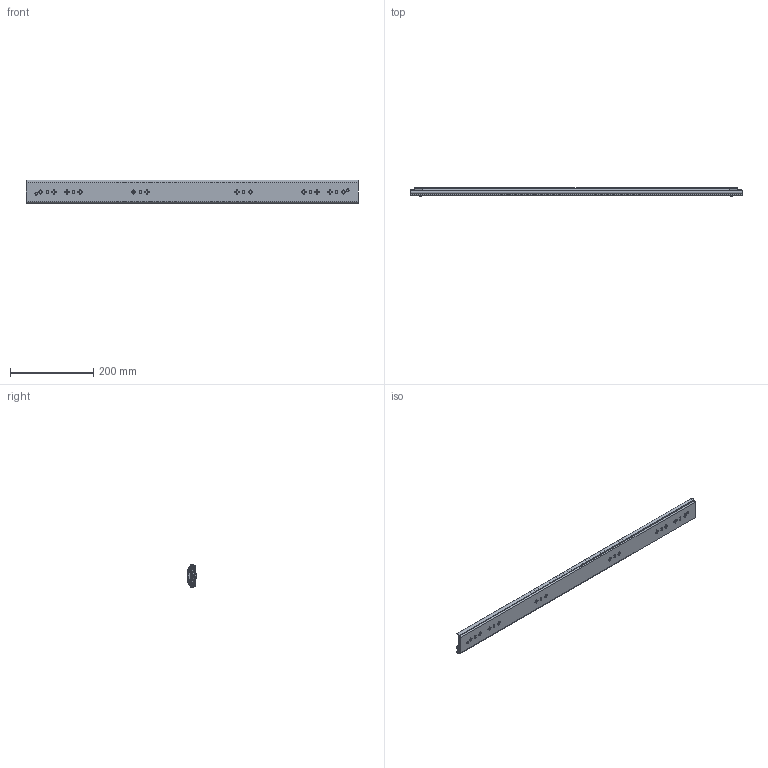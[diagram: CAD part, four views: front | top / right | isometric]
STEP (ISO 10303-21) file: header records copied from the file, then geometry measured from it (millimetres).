
FILE_DESCRIPTION((''),'2;1');
FILE_NAME('1057-C-32_ASM','2023-11-23T',('jishu015'),(''),'PRO/ENGINEER BY PARAMETRIC TECHNOLOGY CORPORATION, 2010280','PRO/ENGINEER BY PARAMETRIC TECHNOLOGY CORPORATION, 2010280','');
FILE_SCHEMA(('CONFIG_CONTROL_DESIGN'));
Products named in the file (19): KP-57-01WEIKE-31______; MAODING-WAI______; 1057DAZHUJIA-20GE1______; 1057ZHUJIADANWEIJIAO123__; 1057-5-6GANZHU1______; 1057DAZHUJIA-20GE_11__________ASM; 1057-C-20-KE_______ASM; KP-57-01ZHONGGUI-28___________; PEIJIAN-22______; ZHUANJIAO112______; LIUJIAO-DING11______; MAODING-P______; PEIJIAN-ZHONG_______ASM; 1057XIAOZHUJIA___20_______; 1057XIAOZHUJIA-20GE________ASM; KP-57-01ZHONGGUI-28____________ASM; KP-57-01NEIGUI-241______; KP-57-01NEIGUI-241_______ASM; 1057-C-32_ASM
Assembly tree (128 placements, depth 4):
  1057-C-32_ASM
    1057-C-20-KE_______ASM
      KP-57-01WEIKE-31______
      MAODING-WAI______  x2
      1057DAZHUJIA-20GE_11__________ASM
        1057DAZHUJIA-20GE1______
        1057ZHUJIADANWEIJIAO123__  x2
        1057-5-6GANZHU1______  x52
    KP-57-01ZHONGGUI-28____________ASM
      KP-57-01ZHONGGUI-28___________
      PEIJIAN-ZHONG_______ASM  x2
        PEIJIAN-22______
        ZHUANJIAO112______
        LIUJIAO-DING11______
        MAODING-P______
      MAODING-WAI______  x2
      1057XIAOZHUJIA-20GE________ASM
        1057XIAOZHUJIA___20_______
        1057-5-6GANZHU1______  x52
        1057ZHUJIADANWEIJIAO123__  x2
    KP-57-01NEIGUI-241_______ASM
      KP-57-01NEIGUI-241______
Bounding box: 800 x 19.8 x 57.67 mm (x, y, z)
Volume: 343272.2 mm3; surface area: 399724.7 mm2
Topology: 125 solids, 125 shells, 3484 faces, 9676 edges, 6020 vertices
Faces by surface type: plane 1552, cylinder 1410, sphere 214, cone 114, bspline 106, torus 88
Entity records: 98570 total; most frequent: CARTESIAN_POINT 20933, DIRECTION 16474, ORIENTED_EDGE 16126, EDGE_CURVE 8063, AXIS2_PLACEMENT_3D 5710, VERTEX_POINT 5196, VECTOR 5054, LINE 5054
